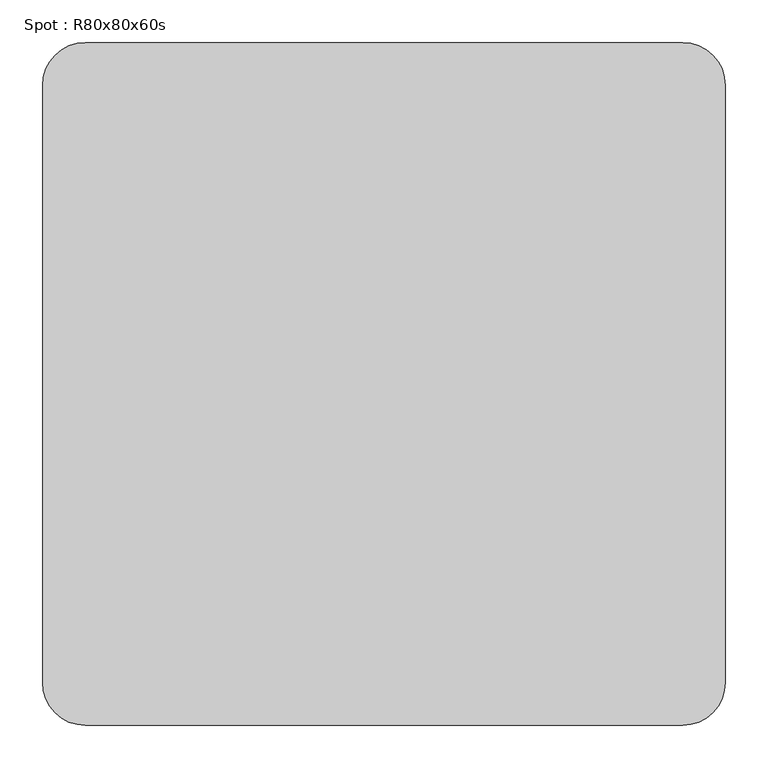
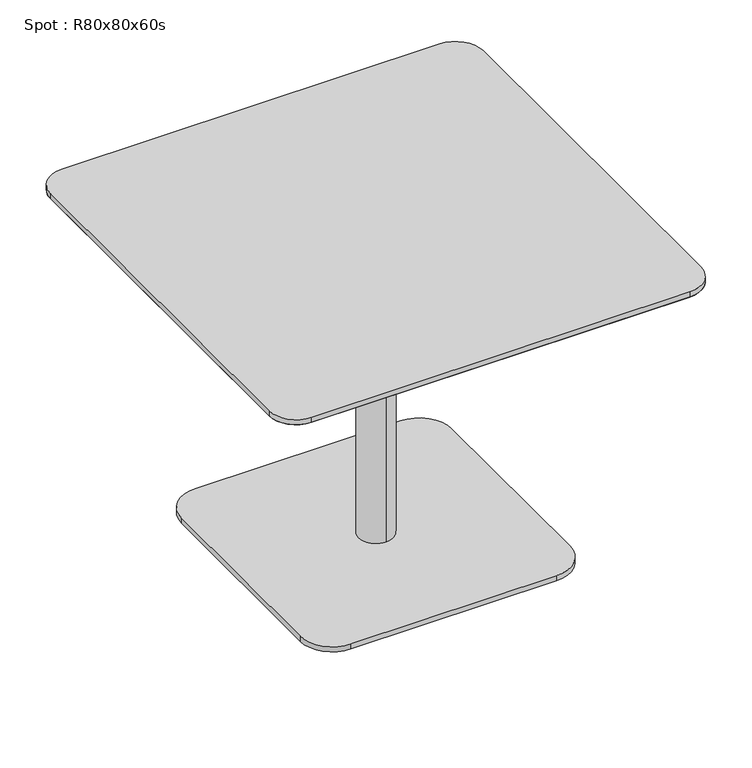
"""IFC4 building model written with IfcOpenShell, lengths in millimetres: furniture geometry, Spot : R80x80x60s."""

import ifcopenshell
import ifcopenshell.guid

model = None  # the IFC model being written
_history = None  # IfcOwnerHistory: only IFC2X3 demands one
_inside = {}  # id of a spatial element -> (the spatial element, [elements in it])
_under = {}  # id of a project, library or spatial element -> (it, [spatial elements below it])
_declared = {}  # id of a project -> (the project, [libraries it declares])
_typed = {}  # id of a type object -> (the type object, [elements of that type])
_made_of = {}  # id of a material, layer set ... -> (it, [elements and type objects made of it])


def new_model(schema):
    """Start an empty IFC model of exactly this schema.

    Asked for "IFC4X3", IfcOpenShell would pick the latest addendum, in which some entities
    have other attributes; the version numbers below select the first issue.
    IFC2X3 requires an IfcOwnerHistory on every rooted entity: one is made here for all.
    """
    global model, _history
    if schema == "IFC4X3":
        model = ifcopenshell.file(schema_version=(4, 3, 0, 0))
    else:
        model = ifcopenshell.file(schema=schema)
    _inside.clear()
    _under.clear()
    _declared.clear()
    _typed.clear()
    _made_of.clear()
    _history = None
    if model.schema == "IFC2X3":
        org = make("IfcOrganization", Name="unknown")
        user = make(
            "IfcPersonAndOrganization",
            ThePerson=make("IfcPerson", FamilyName="unknown"),
            TheOrganization=org,
        )
        app = make(
            "IfcApplication",
            ApplicationDeveloper=org,
            Version="unknown",
            ApplicationFullName="unknown",
            ApplicationIdentifier="unknown",
        )
        _history = make(
            "IfcOwnerHistory",
            OwningUser=user,
            OwningApplication=app,
            ChangeAction="ADDED",
            CreationDate=0,
        )
    return model


def make(cls, **values):
    """One entity of the class cls with the attributes given. An attribute that is None is left unset."""
    return model.create_entity(
        cls, **{name: value for name, value in values.items() if value is not None}
    )


def rooted(cls, **values):
    """An entity with a GlobalId (a new one), such as an element, a storey or a relation."""
    return make(cls, GlobalId=ifcopenshell.guid.new(), OwnerHistory=_history, **values)


def si_unit(unit_type, name, prefix=None):
    """IfcSIUnit, for example si_unit("LENGTHUNIT", "METRE", prefix="MILLI")."""
    return make("IfcSIUnit", UnitType=unit_type, Prefix=prefix, Name=name)


def assignment(units):
    """IfcUnitAssignment: the units of a project."""
    return None if units is None else make("IfcUnitAssignment", Units=units)


def point(xyz):
    """IfcCartesianPoint."""
    return None if xyz is None else make("IfcCartesianPoint", Coordinates=xyz)


def direction(xyz):
    """IfcDirection."""
    return None if xyz is None else make("IfcDirection", DirectionRatios=xyz)


def frame(location, z_axis=None, x_axis=None):
    """IfcAxis2Placement3D, a coordinate frame: its origin and axes. An axis left out is left unset."""
    return make(
        "IfcAxis2Placement3D",
        Location=point(location),
        Axis=direction(z_axis),
        RefDirection=direction(x_axis),
    )


def frame_2d(location, x_axis=None):
    """IfcAxis2Placement2D, a coordinate frame in the plane: its origin and x axis."""
    return make(
        "IfcAxis2Placement2D", Location=point(location), RefDirection=direction(x_axis)
    )


def origin():
    """The frame at (0, 0, 0) with its axes left unset."""
    return frame((0.0, 0.0, 0.0))


def origin_with_axes():
    """The frame at (0, 0, 0) with the z axis (0, 0, 1) and the x axis (1, 0, 0) written out."""
    return frame((0.0, 0.0, 0.0), z_axis=(0.0, 0.0, 1.0), x_axis=(1.0, 0.0, 0.0))


def place(relative_to, where):
    """IfcLocalPlacement: puts the frame where relative to a parent placement (None: the world)."""
    return make(
        "IfcLocalPlacement", PlacementRelTo=relative_to, RelativePlacement=where
    )


def context(
    kind, dimensions, precision=None, world=None, true_north=None, identifier=None
):
    """IfcGeometricRepresentationContext, for example the 3D "Model" context."""
    return make(
        "IfcGeometricRepresentationContext",
        ContextIdentifier=identifier,
        ContextType=kind,
        CoordinateSpaceDimension=dimensions,
        Precision=precision,
        WorldCoordinateSystem=world,
        TrueNorth=true_north,
    )


def project(units=None, contexts=None):
    """IfcProject with its units and contexts."""
    return rooted(
        "IfcProject",
        Name="project",
        RepresentationContexts=contexts,
        UnitsInContext=assignment(units),
    )


def spatial(cls, under=None, at=None, **own):
    """A site, building, storey or space (cls), placed at a placement, below another one or the project."""
    s = rooted(cls, ObjectPlacement=at, **own)
    if under is not None:
        _under.setdefault(under.id(), (under, []))[1].append(s)
    return s


def polyline(points):
    """IfcPolyline through the points."""
    return make("IfcPolyline", Points=[point(p) for p in points])


def circle_curve(where, radius):
    """IfcCircle in the frame where."""
    return make("IfcCircle", Position=where, Radius=radius)


def trimmed(basis, trim1, trim2, sense, master):
    """IfcTrimmedCurve: the piece of a basis curve between two trims."""
    return make(
        "IfcTrimmedCurve",
        BasisCurve=basis,
        Trim1=trim1,
        Trim2=trim2,
        SenseAgreement=sense,
        MasterRepresentation=master,
    )


def segment(curve, same_sense, transition):
    """IfcCompositeCurveSegment."""
    return make(
        "IfcCompositeCurveSegment",
        Transition=transition,
        SameSense=same_sense,
        ParentCurve=curve,
    )


def composite_curve(segments, self_intersect=None):
    """IfcCompositeCurve: segments joined end to end."""
    return make("IfcCompositeCurve", Segments=segments, SelfIntersect=self_intersect)


def outline(outer, holes=None, kind="AREA"):
    """IfcArbitraryClosedProfileDef: a profile drawn as a closed curve; with holes, ...WithVoids."""
    if holes is None:
        return make("IfcArbitraryClosedProfileDef", ProfileType=kind, OuterCurve=outer)
    return make(
        "IfcArbitraryProfileDefWithVoids",
        ProfileType=kind,
        OuterCurve=outer,
        InnerCurves=holes,
    )


def extrude(swept, where, along, depth):
    """IfcExtrudedAreaSolid: the profile swept, set in the frame where, extruded along a direction by depth."""
    return make(
        "IfcExtrudedAreaSolid",
        SweptArea=swept,
        Position=where,
        ExtrudedDirection=direction(along),
        Depth=depth,
    )


def shape(context_of_items, identifier, shape_type, items):
    """IfcShapeRepresentation: the items that make up one representation, for example the "Body"."""
    return make(
        "IfcShapeRepresentation",
        ContextOfItems=context_of_items,
        RepresentationIdentifier=identifier,
        RepresentationType=shape_type,
        Items=items,
    )


def source(mapping_origin, context_of_items, identifier, shape_type, items):
    """IfcRepresentationMap: a shape defined once, which mapped items show again and again."""
    return make(
        "IfcRepresentationMap",
        MappingOrigin=mapping_origin,
        MappedRepresentation=shape(context_of_items, identifier, shape_type, items),
    )


def transform(
    local_origin,
    x_axis=None,
    y_axis=None,
    z_axis=None,
    scale=None,
    scale2=None,
    scale3=None,
    uniform=True,
):
    """IfcCartesianTransformationOperator3D, or its non-uniform kind. x_axis, y_axis, z_axis: its Axis1, 2, 3."""
    if uniform:
        return make(
            "IfcCartesianTransformationOperator3D",
            Axis1=direction(x_axis),
            Axis2=direction(y_axis),
            LocalOrigin=point(local_origin),
            Scale=scale,
            Axis3=direction(z_axis),
        )
    return make(
        "IfcCartesianTransformationOperator3DnonUniform",
        Axis1=direction(x_axis),
        Axis2=direction(y_axis),
        LocalOrigin=point(local_origin),
        Scale=scale,
        Axis3=direction(z_axis),
        Scale2=scale2,
        Scale3=scale3,
    )


def mapped(mapping_source, mapping_target):
    """IfcMappedItem: shows the shape of a source again, moved by a transform."""
    return make(
        "IfcMappedItem", MappingSource=mapping_source, MappingTarget=mapping_target
    )


def made_of(thing, what):
    """Note that an element or type object is made of a material, layer set ...; save() writes the relation."""
    if what is not None:
        _made_of.setdefault(what.id(), (what, []))[1].append(thing)
    return thing


def element(
    cls,
    number,
    at=None,
    inside=None,
    cuts=None,
    type_object=None,
    material=None,
    context=None,
    identifier="Body",
    shape_type=None,
    held_by="IfcProductDefinitionShape",
    body=None,
    shapes=None,
    **own,
):
    """One element of the class cls, such as IfcWall. Its Tag is "e" and its number.

    at: its placement. inside: the storey or other place that contains it. cuts: it is an
    opening in that element (IfcRelVoidsElement). A single representation is given by context,
    identifier, shape_type and body (its items); several are given by shapes. held_by: the class
    of the entity that holds the representations. save() writes the other relations.
    """
    e = rooted(cls, Tag="e%d" % number, ObjectPlacement=at, **own)
    if body is not None:
        shapes = [shape(context, identifier, shape_type, body)]
    if shapes is not None:
        e.Representation = make(held_by, Representations=shapes)
    if inside is not None:
        _inside.setdefault(inside.id(), (inside, []))[1].append(e)
    if cuts is not None:
        rooted(
            "IfcRelVoidsElement", RelatingBuildingElement=cuts, RelatedOpeningElement=e
        )
    if type_object is not None:
        _typed.setdefault(type_object.id(), (type_object, []))[1].append(e)
    return made_of(e, material)


def aggregate(whole, parts):
    """IfcRelAggregates: a whole, such as a stair, and the parts it consists of."""
    return rooted("IfcRelAggregates", RelatingObject=whole, RelatedObjects=parts)


def save(model, path):
    """Write the relations noted so far, then the file.

    IfcRelAggregates (storeys below a building ...), IfcRelContainedInSpatialStructure (elements
    in a storey), IfcRelDefinesByType, IfcRelAssociatesMaterial and IfcRelDeclares: one each for
    every whole, place, type object, material and project.
    """
    for whole, parts in _under.values():
        aggregate(whole, parts)
    for where, things in _inside.values():
        rooted(
            "IfcRelContainedInSpatialStructure",
            RelatedElements=things,
            RelatingStructure=where,
        )
    for kind, things in _typed.values():
        rooted("IfcRelDefinesByType", RelatedObjects=things, RelatingType=kind)
    for what, things in _made_of.values():
        rooted("IfcRelAssociatesMaterial", RelatedObjects=things, RelatingMaterial=what)
    for by, libraries in _declared.values():
        rooted("IfcRelDeclares", RelatingContext=by, RelatedDefinitions=libraries)
    model.write(path)


def plane_surface(at):
    """IfcPlane: the flat surface through the origin of the frame at, square to its z axis."""
    return make("IfcPlane", Position=at)


def cylinder_surface(at, radius):
    """IfcCylindricalSurface: all points at the distance radius from the z axis of the frame at."""
    return make("IfcCylindricalSurface", Position=at, Radius=radius)


def revolved_surface(curve, axis_point, axis_direction):
    """IfcSurfaceOfRevolution: the curve turned about the line through axis_point along axis_direction."""
    return make(
        "IfcSurfaceOfRevolution",
        SweptCurve=make("IfcArbitraryOpenProfileDef", ProfileType="CURVE", Curve=curve),
        AxisPosition=make("IfcAxis1Placement", Location=point(axis_point), Axis=direction(axis_direction)),
    )


def advanced_brep(points, edges, surfaces, faces):
    """IfcAdvancedBrep: a solid bounded by faces that lie on surfaces and meet in shared edges.

    An edge is (start, end): straight between two places in points (the first is 0);
    or (start, end, curve); or (start, end, curve, False) where it runs against its curve.
    A face is (place in surfaces, loops), or (place, loops, False) where it looks against
    its surface's normal. A loop lists edges by number (the first is 1), with a minus sign
    where the edge is run from its end to its start. The first loop is the outer one.
    """
    corners = [point(p) for p in points]
    vertices = [make("IfcVertexPoint", VertexGeometry=c) for c in corners]
    made = []
    for start, end, *more in edges:
        made.append(
            make(
                "IfcEdgeCurve",
                EdgeStart=vertices[start],
                EdgeEnd=vertices[end],
                EdgeGeometry=more[0] if more else make("IfcPolyline", Points=[corners[start], corners[end]]),
                SameSense=more[1] if len(more) > 1 else True,
            )
        )
    hull = []
    for where, loops, *sense in faces:
        bounds = []
        for j, loop in enumerate(loops):
            ring = [make("IfcOrientedEdge", EdgeElement=made[abs(k) - 1], Orientation=k > 0) for k in loop]
            bounds.append(
                make(
                    "IfcFaceOuterBound" if j == 0 else "IfcFaceBound",
                    Bound=make("IfcEdgeLoop", EdgeList=ring),
                    Orientation=True,
                )
            )
        hull.append(make("IfcAdvancedFace", Bounds=bounds, FaceSurface=surfaces[where], SameSense=sense[0] if sense else True))
    return make("IfcAdvancedBrep", Outer=make("IfcClosedShell", CfsFaces=hull))


def spot_r80x80x60s_60a7aa05(model_context):
    return source(origin(), model_context, "Body", "SolidModel", [
        advanced_brep(
        [(-350.0, -350.0, 578.0), (-350.0, 350.0, 578.0), (350.0, 350.0, 578.0), (350.0, -350.0, 578.0), (-400.0, -350.0, 590.0), (-350.0, -400.0, 590.0), (350.0, -400.0, 590.0), (400.0, -350.0, 590.0), (400.0, 350.0, 590.0), (350.0, 400.0, 590.0), (-350.0, 400.0, 590.0), (-400.0, 350.0, 590.0)],
        [
            (0, 1),
            (1, 2),
            (2, 3),
            (3, 0),
            (4, 5, circle_curve(frame((-350.0, -350.0, 590.0), z_axis=(0.0, 0.0, 1.0), x_axis=(0.0, -1.0, 0.0)), 50.0)),
            (5, 6),
            (6, 7, circle_curve(frame((350.0, -350.0, 590.0), z_axis=(0.0, 0.0, 1.0), x_axis=(1.0, 0.0, 0.0)), 50.0)),
            (7, 8),
            (8, 9, circle_curve(frame((350.0, 350.0, 590.0), z_axis=(0.0, 0.0, 1.0), x_axis=(0.0, 1.0, 0.0)), 50.0)),
            (9, 10),
            (10, 11, circle_curve(frame((-350.0, 350.0, 590.0), z_axis=(0.0, 0.0, 1.0), x_axis=(-1.0, 0.0, 0.0)), 50.0)),
            (11, 4),
            (4, 0),
            (0, 5),
            (3, 6),
            (3, 7),
            (2, 8),
            (2, 9),
            (1, 10),
            (1, 11),
        ],
        [
            plane_surface(frame((0.0, 0.0, 578.0), z_axis=(0.0, 0.0, -1.0), x_axis=(-1.0, 0.0, 0.0))),
            plane_surface(frame((0.0, 0.0, 590.0), z_axis=(0.0, 0.0, 1.0), x_axis=(-1.0, 0.0, 0.0))),
            revolved_surface(polyline([(-350.0, -350.0, 578.0), (-350.0, -400.0, 590.0)]), (-350.0, -350.0, 578.0), (0.0, 0.0, 1.0)),
            plane_surface(frame((0.0, -400.0, 590.0), z_axis=(0.0, -0.2333729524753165, -0.9723873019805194), x_axis=(-1.0, 0.0, 0.0))),
            revolved_surface(polyline([(350.0, -350.0, 578.0), (400.0, -350.0, 590.0)]), (350.0, -350.0, 578.0), (0.0, 0.0, 1.0)),
            plane_surface(frame((400.0, 0.0, 590.0), z_axis=(0.23337295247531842, 0.0, -0.9723873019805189), x_axis=(0.0, -1.0, 0.0))),
            revolved_surface(polyline([(350.0, 350.0, 578.0), (350.0, 400.0, 590.0)]), (350.0, 350.0, 578.0), (0.0, 0.0, 1.0)),
            plane_surface(frame((0.0, 400.0, 590.0), z_axis=(0.0, 0.23337295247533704, -0.9723873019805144), x_axis=(1.0, 0.0, 0.0))),
            revolved_surface(polyline([(-350.0, 350.0, 578.0), (-400.0, 350.0, 590.0)]), (-350.0, 350.0, 578.0), (0.0, 0.0, 1.0)),
            plane_surface(frame((-400.0, 0.0, 590.0), z_axis=(-0.2333729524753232, 0.0, -0.9723873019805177), x_axis=(0.0, 1.0, 0.0))),
        ],
        [
            (0, [[1, 2, 3, 4]]),
            (1, [[5, 6, 7, 8, 9, 10, 11, 12]]),
            (2, [[-5, 13, 14]]),
            (3, [[-6, -14, -4, 15]]),
            (4, [[-7, -15, 16]]),
            (5, [[-8, -16, -3, 17]]),
            (6, [[-9, -17, 18]]),
            (7, [[-10, -18, -2, 19]]),
            (8, [[-11, -19, 20]]),
            (9, [[-12, -20, -1, -13]]),
        ],
    ),
        extrude(outline(composite_curve([segment(trimmed(circle_curve(frame_2d((350.0, 350.0)), 50.0), [point((350.0, 400.0))], [point((400.0, 350.0))], False, "CARTESIAN"), True, "CONTINUOUS"), segment(polyline([(400.0, 350.0), (400.0, -350.0)]), True, "CONTINUOUS"), segment(trimmed(circle_curve(frame_2d((350.0, -350.0)), 50.0), [point((400.0, -350.0))], [point((350.0, -400.0))], False, "CARTESIAN"), True, "CONTINUOUS"), segment(polyline([(350.0, -400.0), (-350.0, -400.0)]), True, "CONTINUOUS"), segment(trimmed(circle_curve(frame_2d((-350.0, -350.0)), 50.0), [point((-350.0, -400.0))], [point((-400.0, -350.0))], False, "CARTESIAN"), True, "CONTINUOUS"), segment(polyline([(-400.0, -350.0), (-400.0, 350.0)]), True, "CONTINUOUS"), segment(trimmed(circle_curve(frame_2d((-350.0, 350.0)), 50.0), [point((-400.0, 350.0))], [point((-350.0, 400.0))], False, "CARTESIAN"), True, "CONTINUOUS"), segment(polyline([(-350.0, 400.0), (350.0, 400.0)]), True, "CONTINUOUS")], self_intersect=False)), frame((0.0, 0.0, 590.0), z_axis=(0.0, 0.0, 1.0), x_axis=(1.0, 0.0, 0.0)), (0.0, 0.0, 1.0), 10.0),
        extrude(outline(composite_curve([segment(trimmed(circle_curve(frame_2d((190.0, 190.0)), 60.0), [point((190.0, 250.0))], [point((250.0, 190.0))], False, "CARTESIAN"), True, "CONTINUOUS"), segment(polyline([(250.0, 190.0), (250.0, -190.0)]), True, "CONTINUOUS"), segment(trimmed(circle_curve(frame_2d((190.0, -190.0)), 60.0), [point((250.0, -190.0))], [point((190.0, -250.0))], False, "CARTESIAN"), True, "CONTINUOUS"), segment(polyline([(190.0, -250.0), (-190.0, -250.0)]), True, "CONTINUOUS"), segment(trimmed(circle_curve(frame_2d((-190.0, -190.0)), 60.0), [point((-190.0, -250.0))], [point((-250.0, -190.0))], False, "CARTESIAN"), True, "CONTINUOUS"), segment(polyline([(-250.0, -190.0), (-250.0, 190.0)]), True, "CONTINUOUS"), segment(trimmed(circle_curve(frame_2d((-190.0, 190.0)), 60.0), [point((-250.0, 190.0))], [point((-190.0, 250.0))], False, "CARTESIAN"), True, "CONTINUOUS"), segment(polyline([(-190.0, 250.0), (190.0, 250.0)]), True, "CONTINUOUS")], self_intersect=False)), origin_with_axes(), (0.0, 0.0, 1.0), 10.0),
        advanced_brep(
        [(0.0, 32.0, 10.0), (0.0, -32.0, 10.0), (0.0, -32.0, 547.406916), (0.0, 32.0, 547.406916), (0.0, 0.0, 10.0), (0.0, 150.0, 578.0), (0.0, -150.0, 578.0), (0.0, 0.0, 578.0), (0.0, 150.0, 566.7213673), (0.0, -150.0, 566.7213673)],
        [
            (0, 1, circle_curve(frame((0.0, 0.0, 10.0), z_axis=(0.0, 0.0, 1.0), x_axis=(0.0, -1.0, 0.0)), 32.0)),
            (1, 2),
            (2, 3, circle_curve(frame((0.0, 0.0, 547.406916), z_axis=(0.0, 0.0, -1.0), x_axis=(0.0, -1.0, 0.0)), 32.0)),
            (3, 0),
            (1, 0, circle_curve(frame((0.0, 0.0, 10.0), z_axis=(0.0, 0.0, 1.0), x_axis=(0.0, -1.0, 0.0)), 32.0)),
            (3, 2, circle_curve(frame((0.0, 0.0, 547.406916), z_axis=(0.0, 0.0, -1.0), x_axis=(0.0, -1.0, 0.0)), 32.0)),
            (4, 1),
            (0, 4),
            (5, 6, circle_curve(frame((0.0, 0.0, 578.0), z_axis=(0.0, 0.0, 1.0), x_axis=(0.0, -1.0, 0.0)), 150.0)),
            (6, 7),
            (7, 5),
            (6, 5, circle_curve(frame((0.0, 0.0, 578.0), z_axis=(0.0, 0.0, 1.0), x_axis=(0.0, -1.0, 0.0)), 150.0)),
            (8, 9, circle_curve(frame((0.0, 0.0, 566.7213673), z_axis=(0.0, 0.0, 1.0), x_axis=(0.0, -1.0, 0.0)), 150.0)),
            (9, 6),
            (5, 8),
            (9, 8, circle_curve(frame((0.0, 0.0, 566.7213673), z_axis=(0.0, 0.0, 1.0), x_axis=(0.0, -1.0, 0.0)), 150.0)),
            (2, 9),
            (8, 3),
        ],
        [
            cylinder_surface(frame((0.0, 0.0, 940.0), z_axis=(0.0, 0.0, -1.0), x_axis=(0.0, -1.0, 0.0)), 32.0),
            plane_surface(frame((0.0, 0.0, 10.0), z_axis=(0.0, 0.0, -1.0), x_axis=(0.0, -1.0, 0.0))),
            plane_surface(frame((0.0, 0.0, 578.0), z_axis=(0.0, 0.0, 1.0), x_axis=(0.0, -1.0, 0.0))),
            cylinder_surface(frame((0.0, 0.0, 940.0), z_axis=(0.0, 0.0, -1.0), x_axis=(0.0, -1.0, 0.0)), 150.0),
            revolved_surface(polyline([(0.0, -150.0, 566.7213673), (0.0, -32.0, 547.406916)]), (0.0, 0.0, 940.0), (0.0, 0.0, -1.0)),
        ],
        [
            (0, [[1, 2, 3, 4]]),
            (0, [[5, -4, 6, -2]]),
            (1, [[7, -1, 8]]),
            (1, [[-8, -5, -7]]),
            (2, [[9, 10, 11]]),
            (2, [[12, -11, -10]]),
            (3, [[13, 14, -9, 15]]),
            (3, [[16, -15, -12, -14]]),
            (4, [[-3, 17, -13, 18]]),
            (4, [[-6, -18, -16, -17]]),
        ],
    ),
        extrude(outline(polyline([(0.0, 0.0), (-20.0, 0.0), (-20.0, 20.0), (0.0, 20.0), (0.0, 0.0)])), origin_with_axes(), (0.0, 0.0, 1.0), 10.0),
    ])


if __name__ == "__main__":
    model = new_model("IFC4")
    model_context = context("Model", 3, world=origin())
    ifc_project = project(units=[si_unit("LENGTHUNIT", "METRE", prefix="MILLI")], contexts=[model_context])
    site = spatial("IfcSite", under=ifc_project)
    building = spatial("IfcBuilding", under=site)
    placement = place(None, origin())
    spot_r80x80x60s_shape = spot_r80x80x60s_60a7aa05(model_context)
    element("IfcFurniture", 1, ObjectType="Spot : R80x80x60s", at=placement, inside=building, context=model_context, shape_type="MappedRepresentation", body=[
        mapped(spot_r80x80x60s_shape, transform((0.0, 0.0, 0.0), x_axis=(1.0, 0.0, 0.0), y_axis=(0.0, 1.0, 0.0), z_axis=(0.0, 0.0, 1.0))),
    ])
    save(model, "model.ifc")
